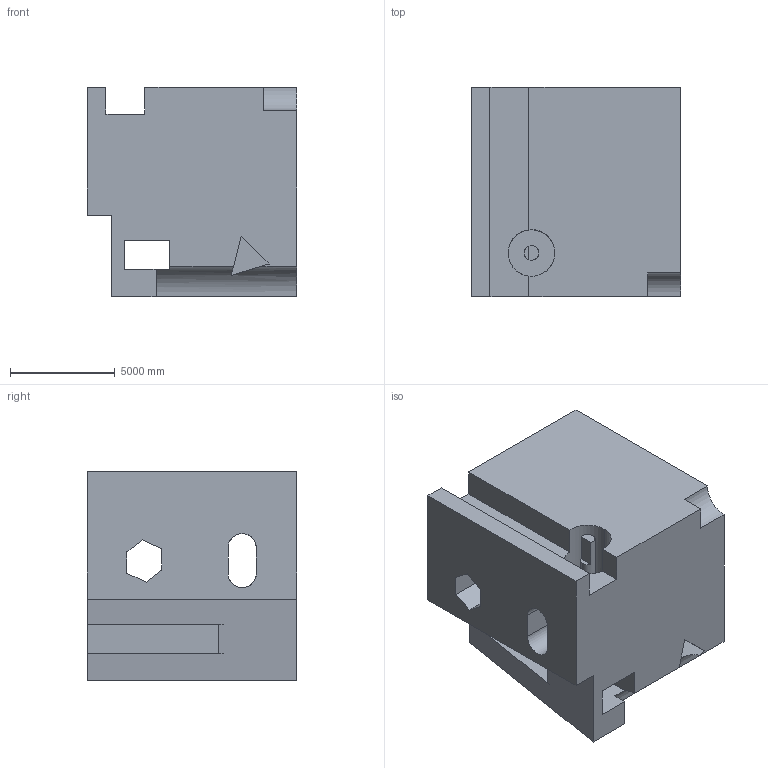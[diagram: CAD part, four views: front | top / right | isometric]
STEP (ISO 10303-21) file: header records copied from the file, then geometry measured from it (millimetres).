
FILE_DESCRIPTION (( 'STEP AP203' ), '1' );
FILE_NAME ('1823.STEP', '2022-08-19T13:14:22', ( 'user' ), ( '' ), 'SwSTEP 2.0', 'SolidWorks 2021', '' );
FILE_SCHEMA (( 'CONFIG_CONTROL_DESIGN' ));
Length unit declared in the file: centimetre
Products named in the file (1): 1823
Bounding box: 10000 x 10000 x 10000 mm (x, y, z)
Volume: 784533477682.8 mm3; surface area: 805092886.6 mm2
Topology: 1 solids, 1 shells, 51 faces, 156 edges, 104 vertices
Faces by surface type: plane 37, cylinder 14
Entity records: 2644 total; most frequent: CARTESIAN_POINT 1164, ORIENTED_EDGE 312, DIRECTION 267, EDGE_CURVE 156, LINE 117, VECTOR 117, VERTEX_POINT 104, AXIS2_PLACEMENT_3D 75
